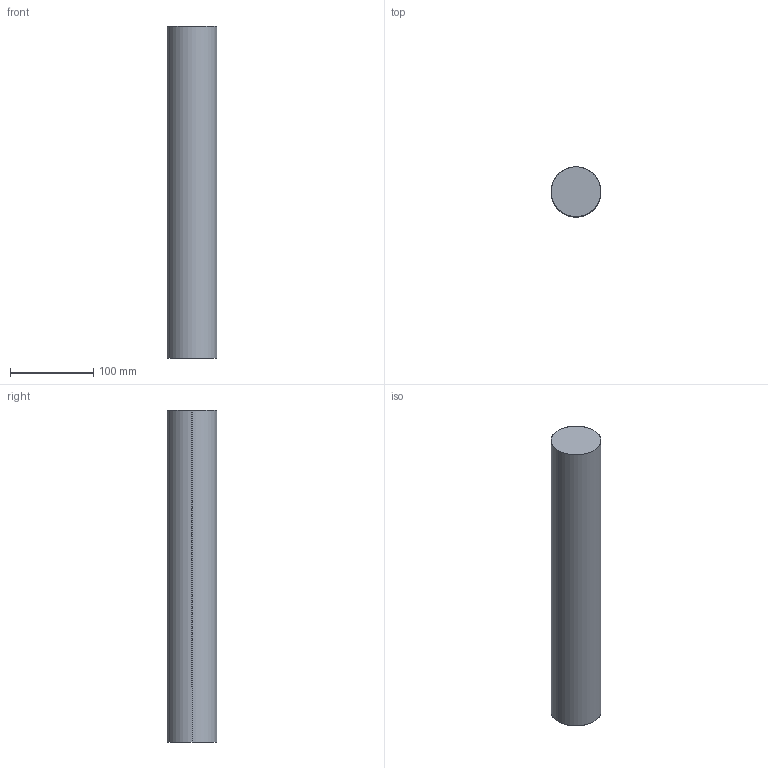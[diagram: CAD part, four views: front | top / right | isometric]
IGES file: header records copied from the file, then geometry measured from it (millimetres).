
Start section: SolidWorks IGES file using analytic representation for surfaces
Global section: file name: R:\Inventor\Kundmodeller Solidworks\Fästen\Mounting column Ø60x400 041J004334.IGS; native system: SolidWorks 2008; preprocessor: SolidWorks 2008; author: Johan; date: 091015.081509; units: millimetre
Bounding box: 60 x 60 x 400 mm (x, y, z)
Surface area: 81053.1 mm2 (no closed solid volume)
Topology: 0 solids, 0 shells, 4 faces, 136 edges, 136 vertices
Faces by surface type: revolution 2, bspline 2
